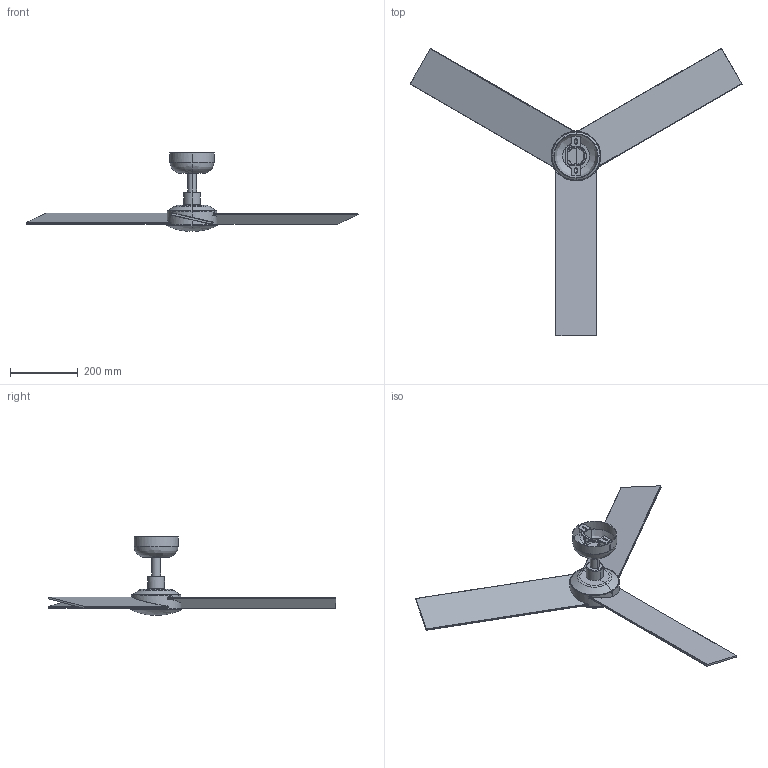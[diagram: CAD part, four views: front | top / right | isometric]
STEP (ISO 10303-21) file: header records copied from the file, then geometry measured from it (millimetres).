
FILE_DESCRIPTION(/* description */ (''),/* implementation_level */ '2;1');
FILE_NAME(/* name */ '34295_3d',/* time_stamp */ '2026-06-02T11:46:55+02:00',/* author */ (''),/* organization */ (''),/* preprocessor_version */ 'ST-DEVELOPER v19.2',/* originating_system */ 'Rhino 8.30',/* authorisation */ '');
FILE_SCHEMA (('CONFIG_CONTROL_DESIGN'));
Length unit declared in the file: millimetre
Products named in the file (1): Document
Bounding box: 979.32 x 848.18 x 233.02 mm (x, y, z)
Volume: 1817062.5 mm3; surface area: 591356.1 mm2
Topology: 5 solids, 6 shells, 248 faces, 666 edges, 414 vertices
Faces by surface type: plane 125, cylinder 89, bspline 34
Entity records: 12614 total; most frequent: CARTESIAN_POINT 6059, ORIENTED_EDGE 1316, EDGE_CURVE 664, DIRECTION 608, B_SPLINE_CURVE_WITH_KNOTS 431, VERTEX_POINT 414, AXIS2_PLACEMENT_3D 411, EDGE_LOOP 281
